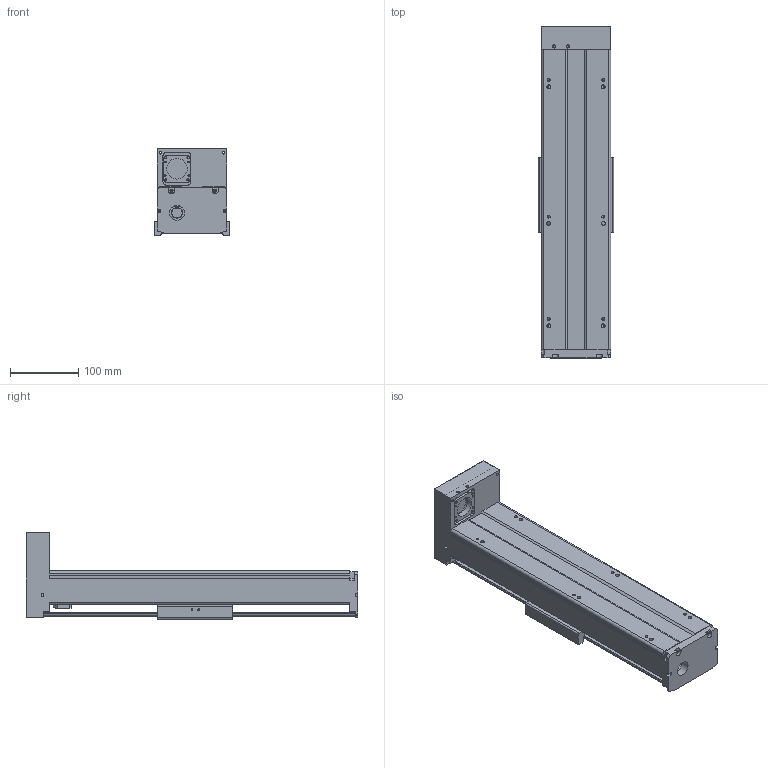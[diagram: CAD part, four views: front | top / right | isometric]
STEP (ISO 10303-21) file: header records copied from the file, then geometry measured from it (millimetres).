
FILE_DESCRIPTION(/* description */ (''),/* implementation_level */ '2;1');
FILE_NAME(/* name */ 'TKA100-FD-250_asm1.stp',/* time_stamp */ '2016-05-16T15:15:16+08:00',/* author */ (''),/* organization */ (''),/* preprocessor_version */ 'ST-DEVELOPER v15',/* originating_system */ 'SIEMENS PLM Software NX 8.5',/* authorisation */ '');
FILE_SCHEMA (('AUTOMOTIVE_DESIGN { 1 0 10303 214 3 1 1 1 }'));
Length unit declared in the file: millimetre
Products named in the file (3): 200-02; 200-01; TKA100-FD-250_asm1
Assembly tree (2 placements, depth 2):
  TKA100-FD-250_asm1
    200-01
    200-02
Bounding box: 110 x 486 x 127 mm (x, y, z)
Volume: 1244029.2 mm3; surface area: 434381.9 mm2
Topology: 2 solids, 8 shells, 759 faces, 1968 edges, 1274 vertices
Faces by surface type: cylinder 291, plane 289, cone 115, torus 38, bspline 26
Full cylindrical faces by diameter (mm): 2.5 x6, 2.6 x8, 3.3 x10, 3.4 x8, 3.8 x8, 4.2 x15, 4.3 x4, 4.5 x8, 5 x1, 5.5 x16, 6.6 x4, 8 x5, 9 x4, 10 x8, 11 x4, 12 x7, 15.3 x1, 16 x1, 22 x1, 24 x1, 28 x4, 30 x1, 33 x1
Entity records: 27624 total; most frequent: CARTESIAN_POINT 9921, DIRECTION 3688, ORIENTED_EDGE 3398, EDGE_CURVE 1699, AXIS2_PLACEMENT_3D 1463, VERTEX_POINT 1201, EDGE_LOOP 1066, LINE 762
